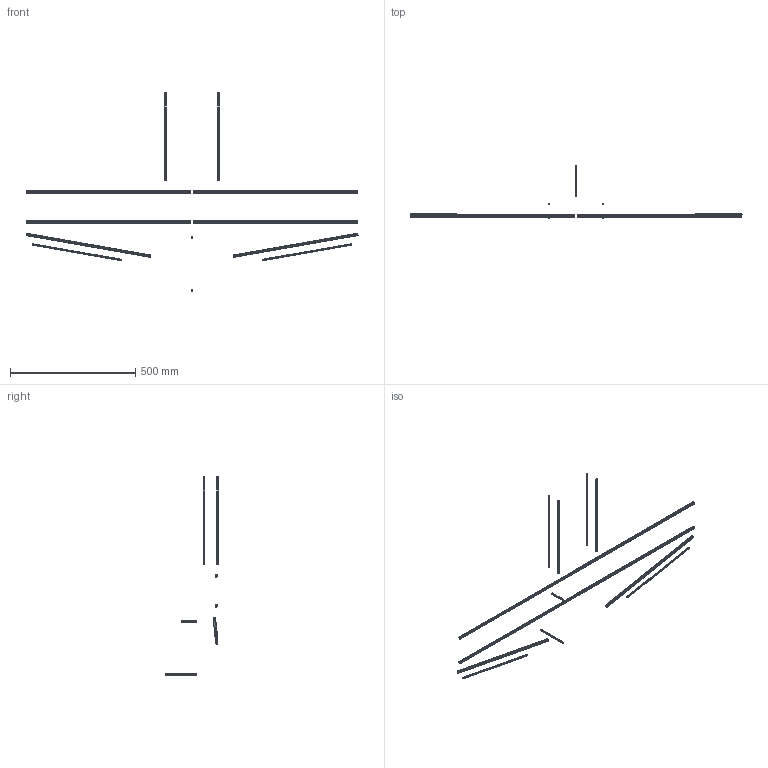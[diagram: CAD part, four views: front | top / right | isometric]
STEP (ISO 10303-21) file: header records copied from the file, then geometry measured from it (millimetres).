
FILE_DESCRIPTION(('EPP parts V2'),'2;1');
FILE_NAME('V2_vstavki_sterzhni.stp','2026-11-25T00:00:00',(''),(''),'','','');
FILE_SCHEMA(('AUTOMOTIVE_DESIGN { 1 0 10303 214 1 1 1 1 }'));
Length unit declared in the file: millimetre
Products named in the file (14): Sterzhen_01; Sterzhen_02; Sterzhen_03; Sterzhen_04; Sterzhen_05; Sterzhen_06; Sterzhen_07; Sterzhen_08; Sterzhen_09; Sterzhen_10; Sterzhen_11; Sterzhen_12; Sterzhen_13; Sterzhen_14
Bounding box: 1324.89 x 214 x 791.01 mm (x, y, z)
Volume: 142811 mm3; surface area: 286737.2 mm2
Topology: 14 solids, 14 shells, 5712 faces, 8568 edges, 2856 vertices
Faces by surface type: plane 5712
Entity records: 97239 total; most frequent: DIRECTION 19994, ORIENTED_EDGE 17136, VECTOR 8568, LINE 8568, EDGE_CURVE 8568, AXIS2_PLACEMENT_3D 5713, PLANE 5712, EDGE_LOOP 5712
